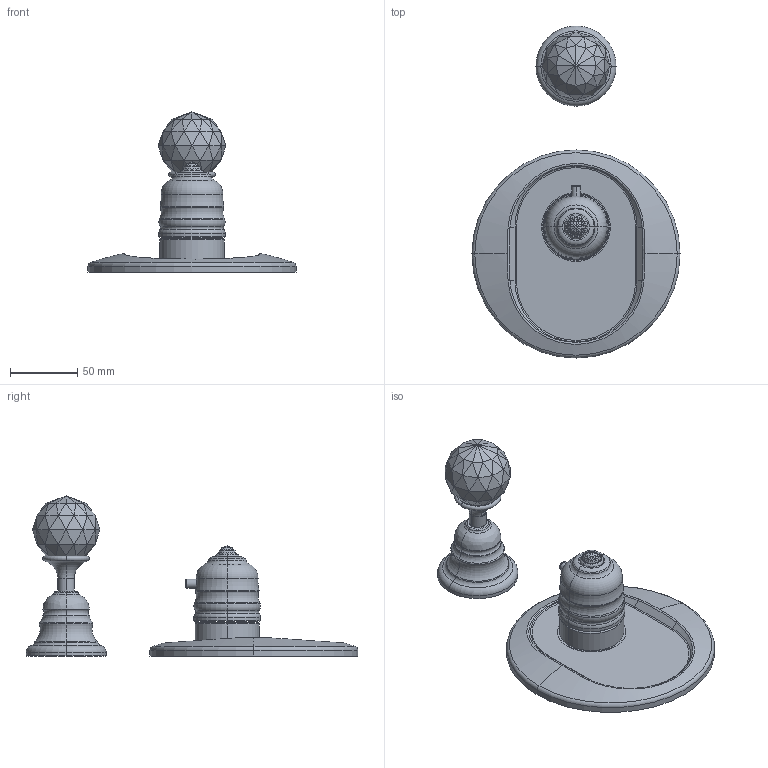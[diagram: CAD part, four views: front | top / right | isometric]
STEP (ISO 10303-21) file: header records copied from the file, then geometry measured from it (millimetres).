
FILE_DESCRIPTION((''),'2;1');
FILE_NAME('F5113X1C_FILE_PD','2013-07-29T',('ivanv'),(''),'PRO/ENGINEER BY PARAMETRIC TECHNOLOGY CORPORATION, 2012130','PRO/ENGINEER BY PARAMETRIC TECHNOLOGY CORPORATION, 2012130','');
FILE_SCHEMA(('CONFIG_CONTROL_DESIGN'));
Length unit declared in the file: millimetre
Products named in the file (1): F5113X1C_FILE_PD
Bounding box: 155 x 247.35 x 119.43 mm (x, y, z)
Volume: 262853.8 mm3; surface area: 105570 mm2
Topology: 4 solids, 5 shells, 383 faces, 779 edges, 416 vertices
Faces by surface type: plane 219, torus 80, cylinder 48, cone 26, bspline 6, sphere 4
Entity records: 11479 total; most frequent: CARTESIAN_POINT 3456, DIRECTION 1782, ORIENTED_EDGE 1558, EDGE_CURVE 779, AXIS2_PLACEMENT_3D 677, VECTOR 428, LINE 428, VERTEX_POINT 416
